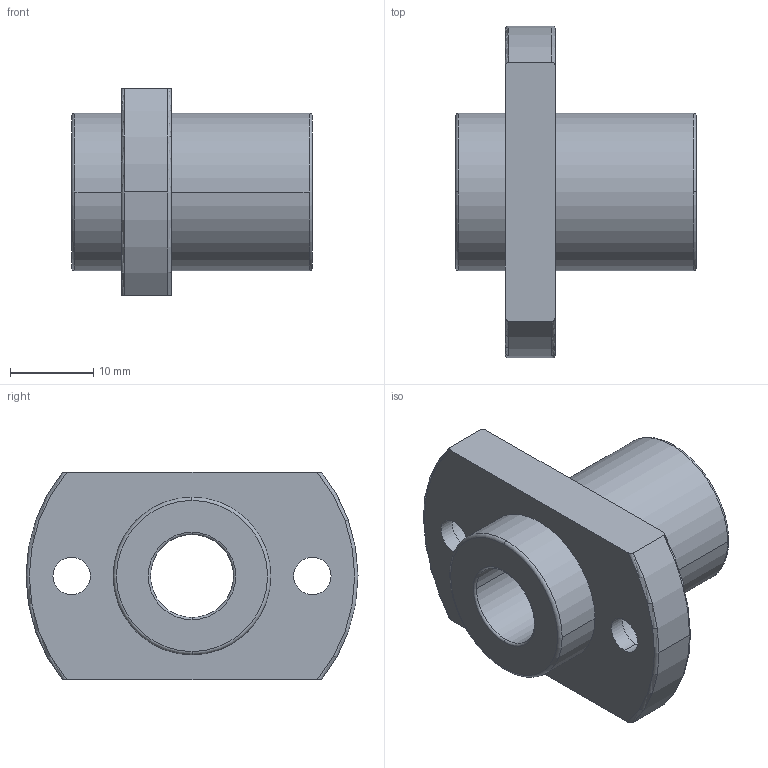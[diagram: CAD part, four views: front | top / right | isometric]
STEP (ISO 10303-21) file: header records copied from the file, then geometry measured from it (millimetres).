
FILE_DESCRIPTION(('FreeCAD Model'),'2;1');
FILE_NAME('Open CASCADE Shape Model','2021-05-03T14:21:56',('Author'),( ''),'Open CASCADE STEP processor 7.5','FreeCAD','Unknown');
FILE_SCHEMA(('AUTOMOTIVE_DESIGN { 1 0 10303 214 1 1 1 1 }'));
Length unit declared in the file: millimetre
Products named in the file (1): linear_lmhp10uu
Bounding box: 29 x 40 x 25 mm (x, y, z)
Volume: 9394.5 mm3; surface area: 4823 mm2
Topology: 1 solids, 1 shells, 38 faces, 100 edges, 68 vertices
Faces by surface type: cylinder 18, torus 12, plane 8
Entity records: 3552 total; most frequent: CARTESIAN_POINT 1515, DIRECTION 400, ORIENTED_EDGE 200, PCURVE 200, DEFINITIONAL_REPRESENTATION 200, LINE 172, VECTOR 172, AXIS2_PLACEMENT_3D 107
